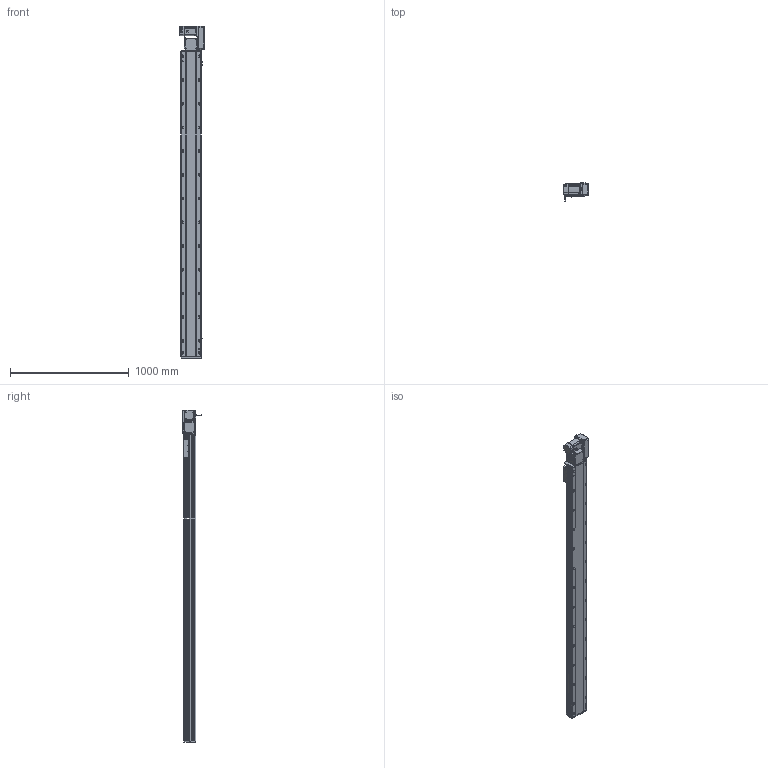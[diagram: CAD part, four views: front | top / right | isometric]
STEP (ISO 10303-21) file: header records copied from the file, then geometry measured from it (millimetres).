
FILE_DESCRIPTION (( 'STEP AP214' ), '1' );
FILE_NAME ('RTB17S-XX-2300-R-M75-C4.STEP', '2025-12-12T01:46:05', ( '' ), ( '' ), 'SwSTEP 2.0', 'SolidWorks 2018', '' );
FILE_SCHEMA (( 'AUTOMOTIVE_DESIGN' ));
Length unit declared in the file: millimetre
Products named in the file (15): EE672^RTB17S-XX-XX-R-M75-C4; RTB22S-GY-008-M75--萇儂啣^RTB17S-R-々湍釱蚾饜-750W_RTB17S-XX-XX-R-M75-C4; RTB17S-L-007奻裔^RTB17S-XX-XX-R-M75-C4; RTB22S-GY-017P^RTB17S-R-々湍釱蚾饜-750W_RTB17S-XX-XX-R-M75-C4; RTB22S-GY-018P^RTB17S-R-々湍釱蚾饜-750W_RTB17S-XX-XX-R-M75-C4; RTB22S-GY-005P^RTB17S-R-々湍釱蚾饜-750W_RTB17S-XX-XX-R-M75-C4; RTB17S-L-014-T20-P75--々湍釱^RTB17S-R-々湍釱蚾饜-750W_RTB17S-XX-XX-R-M75-C4; RTB17S-L-004-賑釱^RTB17S-賑釱_RTB17S-XX-XX-R-M75-C4; 750W萇儂^RTB17S-XX-XX-R-M75-C4; RTH13-BL-012覜茼え俋离^RTB17S-賑釱_RTB17S-XX-XX-R-M75-C4; RTB17-R-011菁釱^RTB17S-XX-XX-R-M75-C4; RTB17S-R-々湍釱蚾饜-750W^RTB17S-XX-XX-R-M75-C4; RTB17S-賑釱^RTB17S-XX-XX-R-M75-C4; RTB17S-XX-2300-R-M75-C4; RTB17S-L-001-耜醱啣^RTB17S-XX-XX-R-M75-C4
Assembly tree (17 placements, depth 3):
  RTB17S-XX-2300-R-M75-C4
    RTB17-R-011菁釱^RTB17S-XX-XX-R-M75-C4
    EE672^RTB17S-XX-XX-R-M75-C4  x3
    RTB17S-L-001-耜醱啣^RTB17S-XX-XX-R-M75-C4
    RTB17S-賑釱^RTB17S-XX-XX-R-M75-C4
      RTB17S-L-004-賑釱^RTB17S-賑釱_RTB17S-XX-XX-R-M75-C4
      RTH13-BL-012覜茼え俋离^RTB17S-賑釱_RTB17S-XX-XX-R-M75-C4
    RTB17S-L-007奻裔^RTB17S-XX-XX-R-M75-C4
    750W萇儂^RTB17S-XX-XX-R-M75-C4
    RTB17S-R-々湍釱蚾饜-750W^RTB17S-XX-XX-R-M75-C4
      RTB17S-L-014-T20-P75--々湍釱^RTB17S-R-々湍釱蚾饜-750W_RTB17S-XX-XX-R-M75-C4
      RTB22S-GY-005P^RTB17S-R-々湍釱蚾饜-750W_RTB17S-XX-XX-R-M75-C4
      RTB22S-GY-017P^RTB17S-R-々湍釱蚾饜-750W_RTB17S-XX-XX-R-M75-C4  x2
      RTB22S-GY-008-M75--萇儂啣^RTB17S-R-々湍釱蚾饜-750W_RTB17S-XX-XX-R-M75-C4
      RTB22S-GY-018P^RTB17S-R-々湍釱蚾饜-750W_RTB17S-XX-XX-R-M75-C4
Bounding box: 207.4 x 152.7 x 2799 mm (x, y, z)
Volume: 20325024.5 mm3; surface area: 3668646.4 mm2
Topology: 17 solids, 17 shells, 2201 faces, 6160 edges, 3986 vertices
Faces by surface type: plane 984, cylinder 801, bspline 294, cone 110, sphere 8, torus 4
Entity records: 63478 total; most frequent: CARTESIAN_POINT 18824, ORIENTED_EDGE 9164, DIRECTION 8492, EDGE_CURVE 4582, AXIS2_PLACEMENT_3D 3006, VERTEX_POINT 2990, LINE 2480, VECTOR 2480
